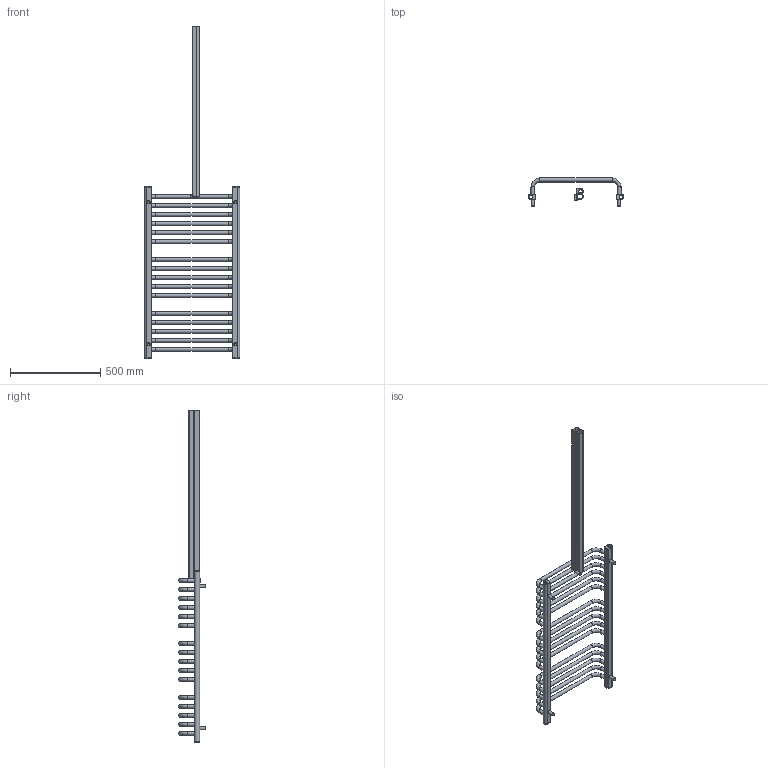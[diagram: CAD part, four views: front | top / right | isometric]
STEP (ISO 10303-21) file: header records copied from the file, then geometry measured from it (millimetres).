
FILE_DESCRIPTION( ( 'Unknown' ), '1' );
FILE_NAME( 'D:/RYSUNKI/RYSUNKI SOLID/SEJWAL/NOWE/2021/EUROPA/EUROPA.stp', 'Unknown', ( 'Unknown' ), ( 'Unknown' ), 'XStep 1.0', 'Unknown', ' ' );
FILE_SCHEMA( ( 'automotive_design' ) );
Length unit declared in the file: millimetre
Products named in the file (6): Assem1; Rurka_20x1_2x500_zew; 30x40x950-U; 30x40x950-U_odb; Dekiel_G1_2; MOCOWANIE
Bounding box: 530 x 154 x 1841.4 mm (x, y, z)
Volume: 3907507 mm3; surface area: 1574951.3 mm2
Topology: 31 solids, 31 shells, 298 faces, 758 edges, 399 vertices
Faces by surface type: cylinder 148, plane 106, torus 44
Full cylindrical faces by diameter (mm): 15 x5, 18 x5, 18.631 x5, 20 x120
Entity records: 2795 total; most frequent: DIRECTION 496, CARTESIAN_POINT 425, ORIENTED_EDGE 408, EDGE_CURVE 204, AXIS2_PLACEMENT_3D 191, EDGE_LOOP 126, VERTEX_POINT 120, FACE_OUTER_BOUND 117
